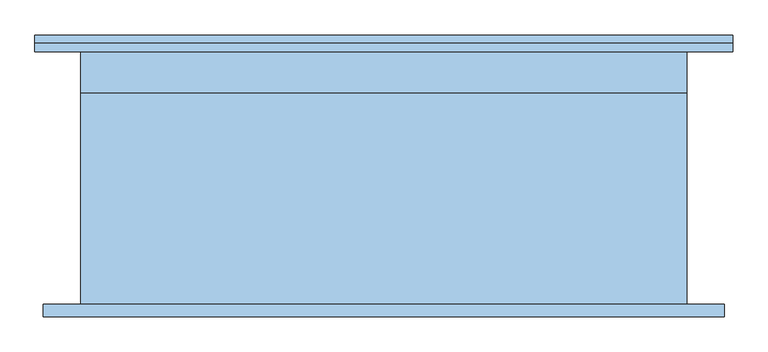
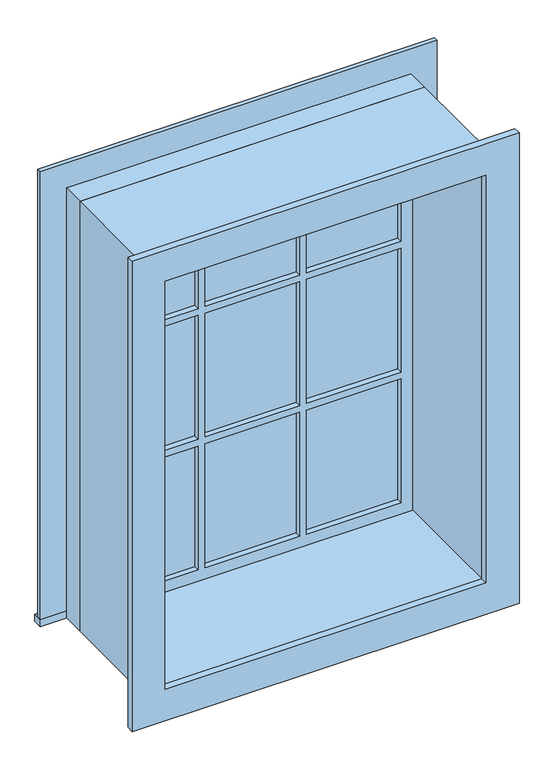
"""IFC4 building model written with IfcOpenShell, lengths in millimetres: window geometry, Окно распашное 3x3 с подрезкой : 0915 x 1220 мм."""

from ifc_helpers import new_model, si_unit, frame, origin, place, context, project, spatial, polyline, outline, extrude, source, transform, mapped, element, save


def window_90be6c16(model_context):
    return source(origin(), model_context, "Body", "SweptSolid", [
        extrude(outline(polyline([(-532.45, 218.2), (532.45, 218.2), (532.45, 192.5), (-532.45, 192.5), (-532.45, 218.2)])), frame((0.0, 0.0, 915.0), z_axis=(0.0, 0.0, 1.0), x_axis=(1.0, 0.0, 0.0)), (0.0, 0.0, 1.0), 19.05),
        extrude(outline(polyline([(2115.95, -443.45), (2115.95, 443.45), (934.05, 443.45), (934.05, 532.45), (2204.95, 532.45), (2204.95, -532.45), (934.05, -532.45), (934.05, -443.45), (2115.95, -443.45)])), frame((0.0, 192.5, 0.0), z_axis=(0.0, 1.0, 0.0), x_axis=(0.0, 0.0, 1.0)), (0.0, 0.0, 1.0), 13.0),
        extrude(outline(polyline([(145.7, 157.625), (399.0, 157.625), (399.0, 144.925), (145.7, 144.925), (145.7, 157.625)])), frame((0.0, 0.0, 1719.8666667), z_axis=(0.0, 0.0, 1.0), x_axis=(1.0, 0.0, 0.0)), (0.0, 0.0, 1.0), 351.6333333),
        extrude(outline(polyline([(-126.65, 157.625), (126.65, 157.625), (126.65, 144.925), (-126.65, 144.925), (-126.65, 157.625)])), frame((0.0, 0.0, 1719.8666667), z_axis=(0.0, 0.0, 1.0), x_axis=(1.0, 0.0, 0.0)), (0.0, 0.0, 1.0), 351.6333333),
        extrude(outline(polyline([(-399.0, 157.625), (-145.7, 157.625), (-145.7, 144.925), (-399.0, 144.925), (-399.0, 157.625)])), frame((0.0, 0.0, 1719.8666667), z_axis=(0.0, 0.0, 1.0), x_axis=(1.0, 0.0, 0.0)), (0.0, 0.0, 1.0), 351.6333333),
        extrude(outline(polyline([(-399.0, 157.625), (-145.7, 157.625), (-145.7, 144.925), (-399.0, 144.925), (-399.0, 157.625)])), frame((0.0, 0.0, 1349.1833333), z_axis=(0.0, 0.0, 1.0), x_axis=(1.0, 0.0, 0.0)), (0.0, 0.0, 1.0), 351.6333333),
        extrude(outline(polyline([(-126.65, 157.625), (126.65, 157.625), (126.65, 144.925), (-126.65, 144.925), (-126.65, 157.625)])), frame((0.0, 0.0, 1349.1833333), z_axis=(0.0, 0.0, 1.0), x_axis=(1.0, 0.0, 0.0)), (0.0, 0.0, 1.0), 351.6333333),
        extrude(outline(polyline([(145.7, 157.625), (399.0, 157.625), (399.0, 144.925), (145.7, 144.925), (145.7, 157.625)])), frame((0.0, 0.0, 1349.1833333), z_axis=(0.0, 0.0, 1.0), x_axis=(1.0, 0.0, 0.0)), (0.0, 0.0, 1.0), 351.6333333),
        extrude(outline(polyline([(145.7, 157.625), (399.0, 157.625), (399.0, 144.925), (145.7, 144.925), (145.7, 157.625)])), frame((0.0, 0.0, 978.5), z_axis=(0.0, 0.0, 1.0), x_axis=(1.0, 0.0, 0.0)), (0.0, 0.0, 1.0), 351.6333333),
        extrude(outline(polyline([(-126.65, 157.625), (126.65, 157.625), (126.65, 144.925), (-126.65, 144.925), (-126.65, 157.625)])), frame((0.0, 0.0, 978.5), z_axis=(0.0, 0.0, 1.0), x_axis=(1.0, 0.0, 0.0)), (0.0, 0.0, 1.0), 351.6333333),
        extrude(outline(polyline([(-399.0, 157.625), (-145.7, 157.625), (-145.7, 144.925), (-399.0, 144.925), (-399.0, 157.625)])), frame((0.0, 0.0, 978.5), z_axis=(0.0, 0.0, 1.0), x_axis=(1.0, 0.0, 0.0)), (0.0, 0.0, 1.0), 351.6333333),
        extrude(outline(polyline([(2192.25, 519.75), (2192.25, -519.75), (857.75, -519.75), (857.75, 519.75), (2192.25, 519.75)]), holes=[polyline([(2103.25, 430.75), (946.75, 430.75), (946.75, -430.75), (2103.25, -430.75), (2103.25, 430.75)])]), frame((0.0, -211.5, 0.0), z_axis=(0.0, 1.0, 0.0), x_axis=(0.0, 0.0, 1.0)), (0.0, 0.0, 1.0), 19.0),
        extrude(outline(polyline([(2115.95, -443.45), (934.05, -443.45), (934.05, 443.45), (2115.95, 443.45), (2115.95, -443.45)]), holes=[polyline([(2071.5, -145.7), (1719.8666667, -145.7), (1719.8666667, -399.0), (2071.5, -399.0), (2071.5, -145.7)]), polyline([(1700.8166667, -145.7), (1349.1833333, -145.7), (1349.1833333, -399.0), (1700.8166667, -399.0), (1700.8166667, -145.7)]), polyline([(1330.1333333, -145.7), (978.5, -145.7), (978.5, -399.0), (1330.1333333, -399.0), (1330.1333333, -145.7)]), polyline([(2071.5, 126.65), (1719.8666667, 126.65), (1719.8666667, -126.65), (2071.5, -126.65), (2071.5, 126.65)]), polyline([(1700.8166667, 126.65), (1349.1833333, 126.65), (1349.1833333, -126.65), (1700.8166667, -126.65), (1700.8166667, 126.65)]), polyline([(1330.1333333, 126.65), (978.5, 126.65), (978.5, -126.65), (1330.1333333, -126.65), (1330.1333333, 126.65)]), polyline([(2071.5, 399.0), (1719.8666667, 399.0), (1719.8666667, 145.7), (2071.5, 145.7), (2071.5, 399.0)]), polyline([(1700.8166667, 399.0), (1349.1833333, 399.0), (1349.1833333, 145.7), (1700.8166667, 145.7), (1700.8166667, 399.0)]), polyline([(1330.1333333, 399.0), (978.5, 399.0), (978.5, 145.7), (1330.1333333, 145.7), (1330.1333333, 399.0)])]), frame((0.0, 129.05, 0.0), z_axis=(0.0, 1.0, 0.0), x_axis=(0.0, 0.0, 1.0)), (0.0, 0.0, 1.0), 44.45),
        extrude(outline(polyline([(2135.0, -462.5), (915.0, -462.5), (915.0, 462.5), (2135.0, 462.5), (2135.0, -462.5)]), holes=[polyline([(2103.25, -430.75), (2103.25, 430.75), (946.75, 430.75), (946.75, -430.75), (2103.25, -430.75)])]), frame((0.0, -192.5, 0.0), z_axis=(0.0, 1.0, 0.0), x_axis=(0.0, 0.0, 1.0)), (0.0, 0.0, 1.0), 321.55),
        extrude(outline(polyline([(2135.0, 462.5), (2135.0, -462.5), (915.0, -462.5), (915.0, 462.5), (2135.0, 462.5)]), holes=[polyline([(2115.95, 443.45), (934.05, 443.45), (934.05, -443.45), (2115.95, -443.45), (2115.95, 443.45)])]), frame((0.0, 129.05, 0.0), z_axis=(0.0, 1.0, 0.0), x_axis=(0.0, 0.0, 1.0)), (0.0, 0.0, 1.0), 63.45),
    ])


if __name__ == "__main__":
    model = new_model("IFC4")
    model_context = context("Model", 3, world=origin())
    ifc_project = project(units=[si_unit("LENGTHUNIT", "METRE", prefix="MILLI")], contexts=[model_context])
    site = spatial("IfcSite", under=ifc_project)
    building = spatial("IfcBuilding", under=site)
    placement = place(None, origin())
    window_shape = window_90be6c16(model_context)
    element("IfcWindow", 1, ObjectType="Окно распашное 3x3 с подрезкой : 0915 x 1220 мм", at=placement, inside=building, context=model_context, shape_type="MappedRepresentation", body=[
        mapped(window_shape, transform((0.0, 0.0, 0.0), x_axis=(1.0, 0.0, 0.0), y_axis=(0.0, 1.0, 0.0), z_axis=(0.0, 0.0, 1.0))),
    ])
    save(model, "model.ifc")
